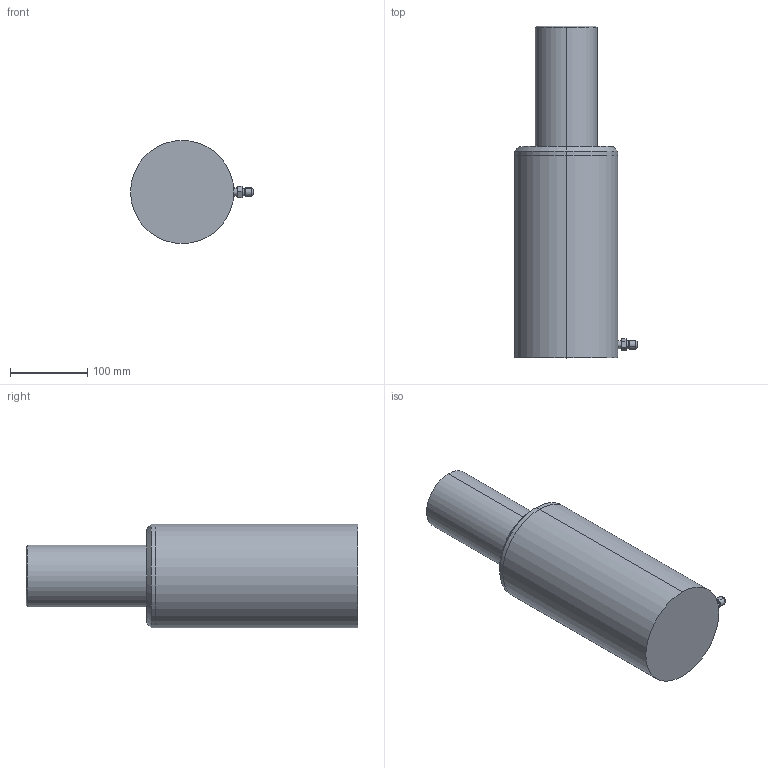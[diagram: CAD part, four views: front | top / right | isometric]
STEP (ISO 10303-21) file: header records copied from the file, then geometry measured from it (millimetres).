
FILE_DESCRIPTION (( 'STEP AP203' ), '1' );
FILE_NAME ('CL_100_S__0155.STEP', '2018-07-12T15:47:56', ( 'Pierluca' ), ( '' ), 'SwSTEP 2.0', 'SolidWorks 2015', '' );
FILE_SCHEMA (( 'CONFIG_CONTROL_DESIGN' ));
Length unit declared in the file: millimetre
Products named in the file (1): CL_100_S__0155
Bounding box: 158.68 x 428.6 x 133.35 mm (x, y, z)
Volume: 4589915.5 mm3; surface area: 180707.4 mm2
Topology: 1 solids, 1 shells, 46 faces, 94 edges, 54 vertices
Faces by surface type: cone 24, plane 12, cylinder 10
Entity records: 1433 total; most frequent: CARTESIAN_POINT 413, DIRECTION 202, ORIENTED_EDGE 188, EDGE_CURVE 94, AXIS2_PLACEMENT_3D 87, VERTEX_POINT 54, EDGE_LOOP 50, FACE_OUTER_BOUND 46
